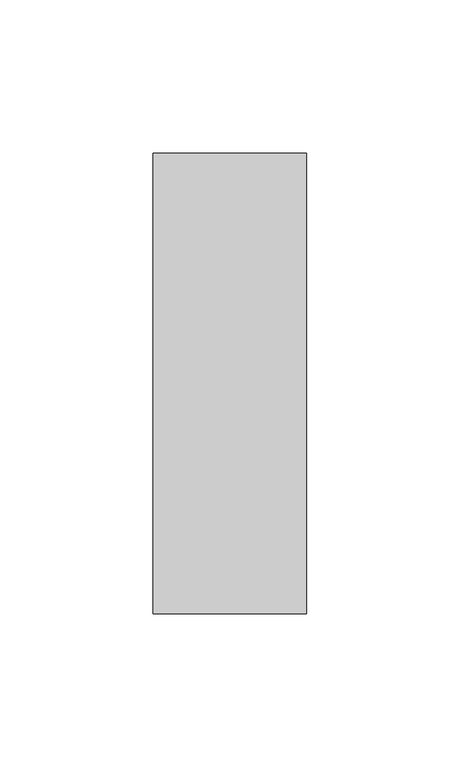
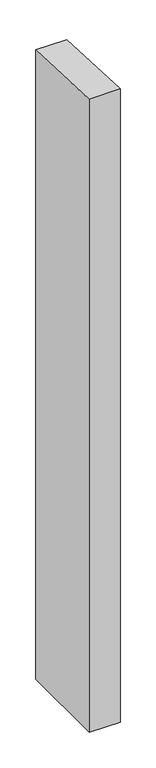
"""IFC4 building model written with IfcOpenShell, lengths in millimetres: member geometry, Прямоугольный импост : 50 x 150 мм."""

from ifc_helpers import new_model, si_unit, origin, place, context, project, spatial, faceted_brep, source, transform, mapped, element, save


def member_39e9114d(model_context):
    return source(origin(), model_context, "Body", "Brep", [
        faceted_brep([(25.0, 75.0, -1078.6483632), (25.0, -75.0, -1078.6483632), (-25.0, -75.0, -1078.6483632), (-25.0, 75.0, -1078.6483632), (-25.0, 75.0, -3.3317844), (25.0, 75.0, -3.2028925), (-25.0, -75.0, 3.2028925), (25.0, -75.0, 3.3317844)], [[[0, 1, 2, 3]], [[4, 5, 0, 3]], [[6, 4, 3, 2]], [[7, 6, 2, 1]], [[5, 7, 1, 0]], [[5, 4, 6, 7]]]),
    ])


if __name__ == "__main__":
    model = new_model("IFC4")
    model_context = context("Model", 3, world=origin())
    ifc_project = project(units=[si_unit("LENGTHUNIT", "METRE", prefix="MILLI")], contexts=[model_context])
    site = spatial("IfcSite", under=ifc_project)
    building = spatial("IfcBuilding", under=site)
    placement = place(None, origin())
    member_shape = member_39e9114d(model_context)
    element("IfcMember", 1, ObjectType="Прямоугольный импост : 50 x 150 мм", at=placement, inside=building, context=model_context, shape_type="MappedRepresentation", body=[
        mapped(member_shape, transform((0.0, 0.0, 0.0), x_axis=(1.0, 0.0, 0.0), y_axis=(0.0, 1.0, 0.0), z_axis=(0.0, 0.0, 1.0))),
    ])
    save(model, "model.ifc")
